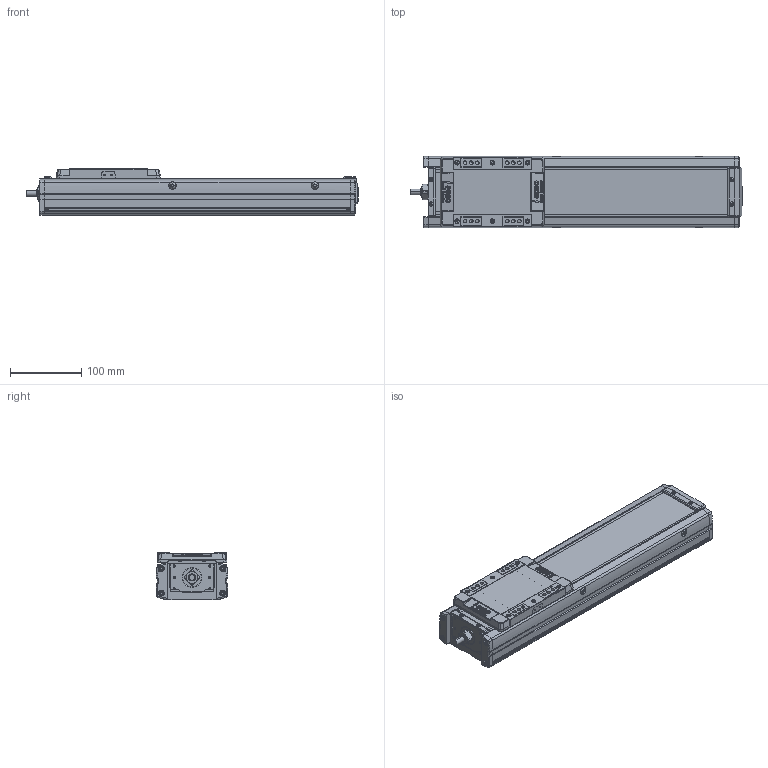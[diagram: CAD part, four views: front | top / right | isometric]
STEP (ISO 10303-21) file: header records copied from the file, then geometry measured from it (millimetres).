
FILE_DESCRIPTION(('STEP AP214'),'1');
FILE_NAME('Z:/Web/3D/SAN100/SAN100 양산용 (STEP)/SAN100ㅁㅁ-250.stp','2013-04-25T02:27:04',(' '),(' '),'Spatial InterOp 3D',' ',' ');
FILE_SCHEMA(('automotive_design'));
Length unit declared in the file: millimetre
Products named in the file (34): SUS COVER; SFX-SAN100; RRCV-SAN100; 스크루 : Round - M4.0 x 10.0; M3.0 x 6.0; 스크루 : Round - M3.0 x 6.0; FRBL-SAN100; SLBL-SAN100; SLCV-SAN100; 스크루 : Countersunk - M3.0 x 6.0; BASE; 스크루 : Round - M5.0 x 6.0; 너트 : Square - M10.0 x 220.7419; RR1500-000L; FRCV-SAN100
Bounding box: 466 x 100 x 66 mm (x, y, z)
Volume: 1313771.7 mm3; surface area: 350329.7 mm2
Topology: 34 solids, 35 shells, 1918 faces, 4990 edges, 3211 vertices
Faces by surface type: plane 965, cylinder 689, cone 182, sphere 44, torus 26, bspline 12
Entity records: 75583 total; most frequent: CARTESIAN_POINT 11503, DIRECTION 10493, ORIENTED_EDGE 9832, EDGE_CURVE 4916, AXIS2_PLACEMENT_3D 3750, VERTEX_POINT 3211, LINE 2993, VECTOR 2993
